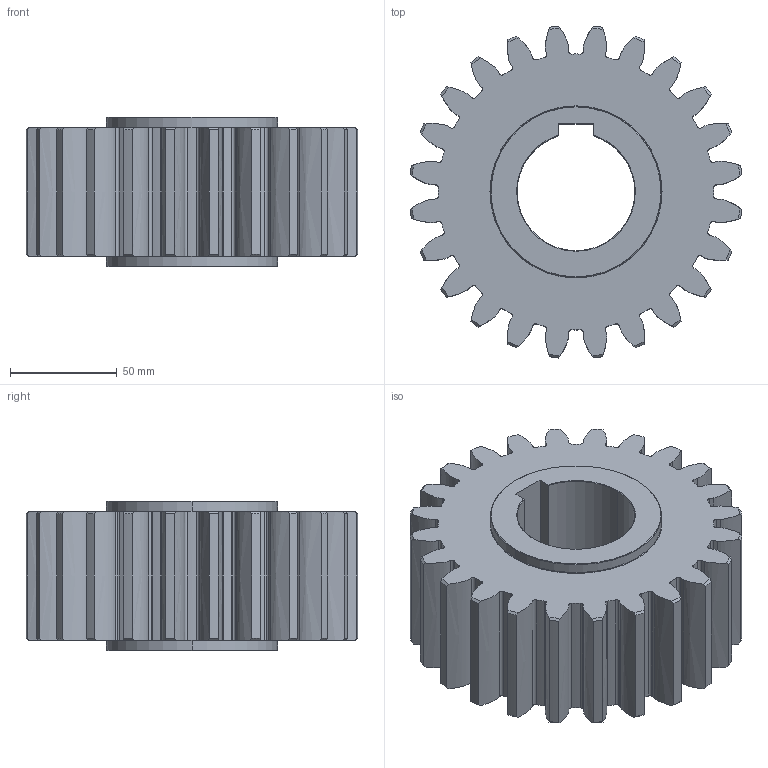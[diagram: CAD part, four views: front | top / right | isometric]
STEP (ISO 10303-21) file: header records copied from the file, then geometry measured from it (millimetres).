
FILE_DESCRIPTION (( 'STEP AP214' ), '1' );
FILE_NAME ('1SG__S060024S.STEP', '2021-08-03T07:56:14', ( '' ), ( '' ), 'SwSTEP 2.0', 'SolidWorks 2021', '' );
FILE_SCHEMA (( 'AUTOMOTIVE_DESIGN' ));
Length unit declared in the file: millimetre
Products named in the file (1): 1SG__S060024S
Bounding box: 155.17 x 155.17 x 70 mm (x, y, z)
Volume: 838487.2 mm3; surface area: 97387.6 mm2
Topology: 1 solids, 1 shells, 256 faces, 792 edges, 540 vertices
Faces by surface type: cylinder 91, bspline 72, cone 58, plane 31, torus 4
Entity records: 16510 total; most frequent: CARTESIAN_POINT 9689, ORIENTED_EDGE 1584, DIRECTION 1262, EDGE_CURVE 792, VERTEX_POINT 540, AXIS2_PLACEMENT_3D 481, LINE 300, VECTOR 300
